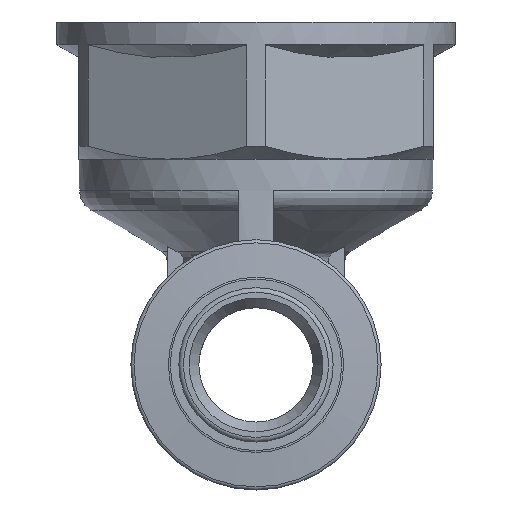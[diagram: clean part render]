
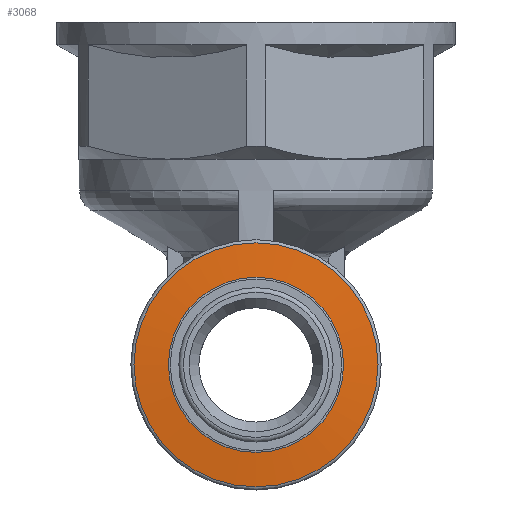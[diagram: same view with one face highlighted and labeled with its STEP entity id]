
A CAD part, front view. The second image highlights one B-rep face of the part: STEP entity #3068.
In plain terms, the highlighted conical face has half-angle 85 degrees and reference radius 9.169 mm.
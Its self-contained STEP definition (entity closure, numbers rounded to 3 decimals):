
#3068=ADVANCED_FACE('',(#6321,#6323),#6325,.T.);
#6321=FACE_OUTER_BOUND('',#6322,.T.);
#6322=EDGE_LOOP('',(#9128));
#6323=FACE_OUTER_BOUND('',#6324,.T.);
#6324=EDGE_LOOP('',(#9129));
#6325=CONICAL_SURFACE('',#6326,9.169,1.484);
#6326=AXIS2_PLACEMENT_3D('',#6327,#6328,#6329);
#6327=CARTESIAN_POINT('',(0.,-27.056,0.));
#6328=DIRECTION('',(0.,1.,0.));
#6329=DIRECTION('',(-1.,0.,0.));
#9128=ORIENTED_EDGE('',*,*,#10184,.T.);
#9129=ORIENTED_EDGE('',*,*,#10185,.T.);
#10184=EDGE_CURVE('',#11794,#11794,#11795,.T.);
#10185=EDGE_CURVE('',#11796,#11796,#11797,.F.);
#11794=VERTEX_POINT('',#17285);
#11795=CIRCLE('',#17286,7.663);
#11796=VERTEX_POINT('',#17290);
#11797=CIRCLE('',#17291,10.676);
#17285=CARTESIAN_POINT('',(-7.663,-27.188,0.));
#17286=AXIS2_PLACEMENT_3D('',#17287,#17288,#17289);
#17287=CARTESIAN_POINT('',(0.,-27.188,0.));
#17288=DIRECTION('',(0.,1.,0.));
#17289=DIRECTION('',(-1.,0.,0.));
#17290=CARTESIAN_POINT('',(-10.676,-26.924,0.));
#17291=AXIS2_PLACEMENT_3D('',#17292,#17293,#17294);
#17292=CARTESIAN_POINT('',(0.,-26.924,0.));
#17293=DIRECTION('',(0.,1.,0.));
#17294=DIRECTION('',(-1.,0.,0.));
